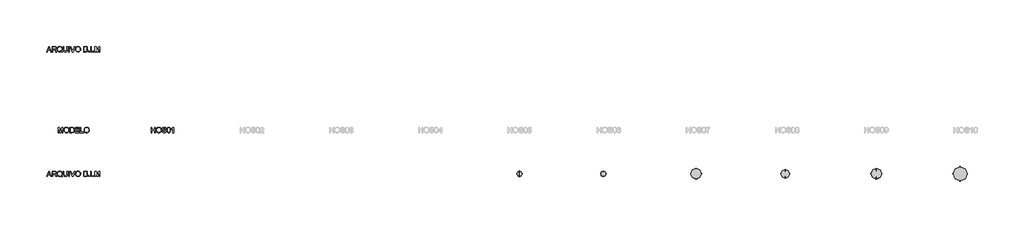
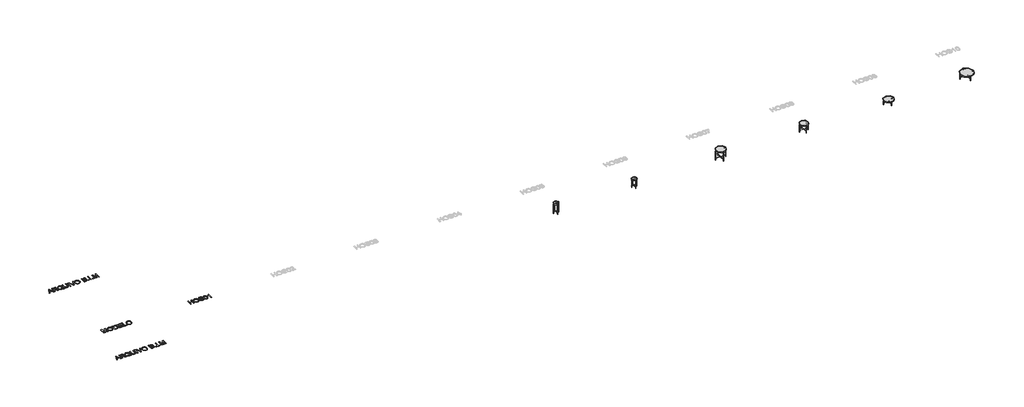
# One storey, part 1 of 6: 6 furniture elements, 4 proxies.
"""IFC4 building model written with IfcOpenShell, lengths in millimetres."""

from ifc_helpers import new_model, si_unit, origin, origin_with_axes, place, context, project, spatial, polyline, outline, extrude, transform, mapped, element, save
from components import furniture_314bbc4c, furniture_1215a6ad, furniture_02275d27, furniture_7c72b268, furniture_b6648ea0, furniture_61072afe

model = new_model("IFC4")

# Units and contexts
model_context = context("Model", 3, world=origin())
ifc_project = project(units=[si_unit("LENGTHUNIT", "METRE", prefix="MILLI")], contexts=[model_context])

# Site, building, storey
site = spatial("IfcSite", under=ifc_project)
building = spatial("IfcBuilding", under=site)
storey = spatial("IfcBuildingStorey", under=building, Name="Marelli - Linha HOSPITALITY - Planta Baixa", Elevation=0.0)

# Proxies
placement = place(None, origin())
element("IfcBuildingElementProxy", 1, Name="300mm Arial", ObjectType="300mm Arial", at=placement, inside=storey, context=model_context, shape_type="SweptSolid", body=[
    extrude(outline(polyline([(-4747.9135417, -4780.5663201), (-4747.9135417, -4479.1973896), (-4710.2424254, -4479.1973896), (-4710.2424254, -4601.6285176), (-4550.1401811, -4601.6285176), (-4550.1401811, -4479.1973896), (-4512.4690648, -4479.1973896), (-4512.4690648, -4780.5663201), (-4550.1401811, -4780.5663201), (-4550.1401811, -4639.2996339), (-4710.2424254, -4639.2996339), (-4710.2424254, -4780.5663201), (-4747.9135417, -4780.5663201)])), origin_with_axes(), (0.0, 0.0, 1.0), 10.0),
    extrude(outline(polyline([(-4460.6712798, -4633.8549804), (-4458.1604852, -4598.5061192), (-4450.6281014, -4567.213157), (-4438.0741283, -4539.9760937), (-4420.498566, -4516.7949295), (-4398.9544766, -4498.2858666), (-4374.4949225, -4485.0651074), (-4347.1199035, -4477.1326519), (-4316.8294197, -4474.4885001), (-4277.3004994, -4479.454907), (-4241.8550691, -4494.3541278), (-4212.4245095, -4518.1376988), (-4190.940201, -4549.7571563), (-4177.8068138, -4587.68579), (-4173.429018, -4630.3968896), (-4178.03674, -4673.6782064), (-4191.859906, -4712.140269), (-4214.1351608, -4743.8149087), (-4244.0991493, -4766.733957), (-4279.2410769, -4780.6398965), (-4317.0501489, -4785.2752096), (-4357.1860746, -4780.1524528), (-4392.8338399, -4764.7841825), (-4422.1908232, -4740.5591531), (-4443.4544025, -4708.8661192), (-4456.3670605, -4672.3998164), (-4460.6712798, -4633.8549804)]), holes=[polyline([(-4423.0001635, -4634.2228624), (-4421.1170676, -4659.1974513), (-4415.4677797, -4681.3669401), (-4406.0522999, -4700.7313286), (-4392.8706281, -4717.2906169), (-4376.847068, -4730.5527628), (-4358.9059229, -4740.0257242), (-4339.047193, -4745.709501), (-4317.2708781, -4747.6040933), (-4295.1220828, -4745.6911069), (-4275.028828, -4739.9521478), (-4256.991114, -4730.3872159), (-4241.0089405, -4716.9963113), (-4227.9238378, -4700.0875351), (-4218.5773359, -4679.9689885), (-4212.9694347, -4656.6406715), (-4211.1001343, -4630.102584), (-4214.3007077, -4596.7540812), (-4223.9024278, -4567.9305269), (-4239.6569742, -4544.358488), (-4261.3160267, -4526.7645316), (-4287.4448454, -4515.8108452), (-4316.6086905, -4512.1596164), (-4337.628548, -4513.9185522), (-4357.1308923, -4519.1953595), (-4375.1157233, -4527.9900385), (-4391.5830412, -4540.302589), (-4405.3280322, -4556.7262208), (-4415.1458829, -4577.8541437), (-4421.0365934, -4603.6863575), (-4423.0001635, -4634.2228624)])]), origin_with_axes(), (0.0, 0.0, 1.0), 10.0),
    extrude(outline(polyline([(-4135.7579017, -4676.9707502), (-4098.0867854, -4676.9707502), (-4093.764172, -4697.8756446), (-4085.9466796, -4714.6786547), (-4073.7513914, -4728.0143771), (-4056.2953908, -4738.517408), (-4034.958235, -4745.332422), (-4011.1194817, -4747.6040933), (-3990.1318139, -4745.884245), (-3971.7561083, -4740.7247), (-3956.8660845, -4732.5577197), (-3946.3354624, -4721.8155654), (-3940.0722714, -4709.4823216), (-3937.9845411, -4696.5420724), (-3939.5480396, -4683.932917), (-3944.238535, -4673.0344129), (-3953.7666787, -4663.7361954), (-3969.8431219, -4655.9279001), (-4024.6943274, -4641.5437141), (-4060.7007776, -4632.0247675), (-4083.7393876, -4622.9656733), (-4102.4921723, -4610.2921386), (-4115.7819094, -4594.9330653), (-4123.7005693, -4577.2195472), (-4126.3401226, -4557.4826782), (-4123.0751699, -4535.4189555), (-4113.2803118, -4514.845155), (-4097.2130657, -4497.4075484), (-4075.1309489, -4484.7524077), (-4048.6250512, -4477.054477), (-4019.286462, -4474.4885001), (-3987.5014577, -4477.1740386), (-3959.6895788, -4485.2306543), (-3936.8441069, -4498.4928003), (-3919.9583233, -4516.7949295), (-3909.2713514, -4538.9966079), (-3905.0223143, -4563.9574013), (-3942.6934306, -4563.9574013), (-3949.6096121, -4541.4798114), (-3964.0305864, -4525.2562154), (-3986.5633586, -4515.4337661), (-4017.8149341, -4512.1596164), (-4049.8022735, -4515.3969779), (-4071.7464345, -4525.1090626), (-4084.4383634, -4539.4012781), (-4088.6690063, -4556.3790322), (-4085.6707681, -4570.8551887), (-4076.6760533, -4582.4986539), (-4055.412474, -4592.9097143), (-4015.1661837, -4603.541504), (-3973.6323064, -4613.6398648), (-3948.5059662, -4622.4506385), (-3927.0308547, -4636.1174547), (-3912.0488604, -4652.9848441), (-3903.2472837, -4672.868866), (-3900.3134248, -4695.5855792), (-3903.6887421, -4718.8081301), (-3913.814694, -4740.6511236), (-3930.2774133, -4759.4498935), (-3952.6630327, -4773.539774), (-3979.5827977, -4782.3413507), (-4009.6479538, -4785.2752096), (-4046.5557149, -4782.1114244), (-4076.9335707, -4772.620069), (-4101.1310089, -4756.764355), (-4119.4975175, -4734.5074943), (-4131.2881355, -4707.3945912), (-4135.7579017, -4676.9707502)])), origin_with_axes(), (0.0, 0.0, 1.0), 10.0),
    extrude(outline(polyline([(-3857.933419, -4632.309876), (-3855.1651069, -4584.0713494), (-3846.8601709, -4545.6000897), (-3833.1013843, -4516.3074859), (-3813.9715205, -4495.6049266), (-3789.3326239, -4483.2992739), (-3759.0467386, -4479.1973896), (-3735.8333848, -4481.6254108), (-3715.048052, -4488.9094743), (-3697.6656278, -4500.7644716), (-3684.6609992, -4516.9052941), (-3674.83855, -4537.1939862), (-3667.0026635, -4561.4925919), (-3661.8707096, -4592.3486943), (-3660.1600583, -4632.309876), (-3662.9007792, -4680.2724911), (-3671.1229418, -4718.6517803), (-3684.798955, -4747.9719753), (-3703.9012276, -4768.757308), (-3728.5953065, -4781.1457342), (-3759.0467386, -4785.2752096), (-3779.7952832, -4783.4817849), (-3798.1893829, -4778.1015107), (-3814.2290379, -4769.1343871), (-3827.9142481, -4756.580414), (-3841.0476354, -4733.8866934), (-3850.4286262, -4705.6103636), (-3856.0572208, -4671.7514244), (-3857.933419, -4632.309876)]), holes=[polyline([(-3820.2623026, -4632.2362996), (-3815.8477187, -4691.492892), (-3810.3294888, -4711.7608907), (-3802.6039669, -4725.788691), (-3782.8854919, -4742.1502427), (-3759.0467386, -4747.6040933), (-3735.2079854, -4742.1318486), (-3715.4895104, -4725.7151146), (-3707.7639885, -4711.6643216), (-3702.2457586, -4691.4009215), (-3697.8311747, -4632.2362996), (-3702.0986058, -4574.3132795), (-3707.4328947, -4554.1119594), (-3714.9008992, -4539.750766), (-3734.582586, -4522.589071), (-3759.488197, -4516.8685059), (-3783.0694329, -4521.9084893), (-3802.0153557, -4537.0284393), (-3809.998395, -4552.6634241), (-3815.7005659, -4573.7430624), (-3820.2623026, -4632.2362996)])]), origin_with_axes(), (0.0, 0.0, 1.0), 10.0),
    extrude(outline(polyline([(-3485.9311454, -4780.5663201), (-3523.6022617, -4780.5663201), (-3523.6022617, -4545.7104543), (-3559.2868153, -4571.1311002), (-3598.9444943, -4590.1505994), (-3598.9444943, -4554.5396222), (-3569.3575849, -4538.4447849), (-3543.7254069, -4519.2965271), (-3523.5194883, -4498.9342587), (-3510.2113571, -4479.1973896), (-3485.9311454, -4479.1973896), (-3485.9311454, -4780.5663201)])), origin_with_axes(), (0.0, 0.0, 1.0), 10.0),
])
element("IfcBuildingElementProxy", 2, Name="300mm Arial", ObjectType="300mm Arial", at=placement, inside=storey, context=model_context, shape_type="SweptSolid", body=[
    extrude(outline(polyline([(-10609.419598, -239.4931861), (-10489.1221856, 61.8757443), (-10457.0428756, 61.8757443), (-10336.7454632, -239.4931861), (-10376.550295, -239.4931861), (-10411.0576262, -145.3153953), (-10535.1810114, -145.3153953), (-10569.6147661, -239.4931861), (-10609.419598, -239.4931861)]), holes=[polyline([(-10521.3486483, -107.644279), (-10424.8164128, -107.644279), (-10451.9661041, -33.5528452), (-10473.0825306, 24.204628), (-10491.8445123, -27.0781221), (-10521.3486483, -107.644279)])]), origin_with_axes(), (0.0, 0.0, 1.0), 10.0),
    extrude(outline(polyline([(-10296.4991729, -239.4931861), (-10296.4991729, 61.8757443), (-10166.6368286, 61.8757443), (-10131.7340243, 59.8431963), (-10106.3409696, 53.7455523), (-10087.7813229, 42.4883632), (-10073.3787428, 24.9771802), (-10064.1357077, 3.2629455), (-10061.054696, -20.603399), (-10066.1590587, -50.291476), (-10081.4721467, -74.9027815), (-10093.0719259, -84.9321644), (-10107.4538126, -92.9473933), (-10144.5639089, -102.9353895), (-10123.1531768, -119.0486209), (-10092.6189712, -157.8233832), (-10042.3662906, -239.4931861), (-10086.144248, -239.4931861), (-10125.3604687, -177.0268233), (-10153.6873824, -135.6768871), (-10173.5897983, -116.1423531), (-10191.5056515, -108.9686542), (-10213.357842, -107.644279), (-10258.8280566, -107.644279), (-10258.8280566, -239.4931861), (-10296.4991729, -239.4931861)]), holes=[polyline([(-10258.8280566, -69.9731627), (-10174.5095033, -69.9731627), (-10150.293671, -68.6395905), (-10131.5040981, -64.6388738), (-10117.3590353, -57.7042982), (-10107.0767336, -47.5691492), (-10100.8135426, -35.3094817), (-10098.7258123, -22.0013506), (-10102.7081349, -3.6256449), (-10114.6551027, 11.1816054), (-10135.2105092, 20.9488724), (-10165.0181478, 24.204628), (-10258.8280566, 24.204628), (-10258.8280566, -69.9731627)])]), origin_with_axes(), (0.0, 0.0, 1.0), 10.0),
    extrude(outline(polyline([(-9768.7356626, -203.3671742), (-9744.4002686, -221.963609), (-9722.0146492, -234.7842966), (-9732.1681923, -262.3754462), (-9763.2358268, -247.9728661), (-9794.1930967, -227.1323511), (-9829.0499157, -239.9346445), (-9867.4016137, -244.2020756), (-9905.9372527, -239.281654), (-9940.7572836, -224.5203889), (-9969.9211287, -200.8471825), (-9991.4882107, -169.1909368), (-10004.814736, -131.2898943), (-10009.2569111, -88.8822973), (-10004.823933, -46.4379121), (-9991.5249989, -7.9850465), (-9970.0406904, 24.1218546), (-9941.0515892, 47.5283465), (-9906.360317, 61.820562), (-9867.7694957, 66.5846339), (-9828.8751718, 61.7101974), (-9794.0091557, 47.0868881), (-9765.0660397, 23.6895932), (-9743.9404161, -7.5067999), (-9731.0277581, -44.8468225), (-9726.7235388, -86.6750053), (-9729.3355009, -121.458248), (-9737.1713874, -152.5258824), (-9750.2863806, -179.8411206), (-9768.7356626, -203.3671742)]), holes=[polyline([(-9857.0273415, -153.2616464), (-9825.3527017, -165.2362054), (-9799.784903, -181.8828657), (-9784.3016695, -164.4084709), (-9773.2422171, -143.034527), (-9766.6065456, -117.7610339), (-9764.3946551, -88.5879917), (-9767.521652, -55.4326269), (-9776.9026429, -26.7470283), (-9792.3077015, -3.2577629), (-9813.5069014, 14.3086024), (-9839.065503, 25.2622888), (-9867.5487665, 28.9135176), (-9889.033075, 27.0672098), (-9908.6043972, 21.5282865), (-9926.2627329, 12.2967477), (-9942.0080823, -0.6274066), (-9954.9483315, -17.2165854), (-9964.1913666, -37.4431973), (-9969.7371877, -61.3072425), (-9971.5857948, -88.8087209), (-9969.7578811, -115.5928294), (-9964.2741401, -139.0705985), (-9955.1345718, -159.2420281), (-9942.3391761, -176.1071183), (-9926.7018921, -189.4175488), (-9909.0366585, -198.9249991), (-9889.3434755, -204.6294693), (-9867.6223429, -206.5309593), (-9846.7082515, -204.5995789), (-9827.081747, -198.8054374), (-9846.3771577, -188.7806531), (-9866.7394261, -182.1035949), (-9857.0273415, -153.2616464)])]), origin_with_axes(), (0.0, 0.0, 1.0), 10.0),
    extrude(outline(polyline([(-9472.4435037, 61.8757443), (-9434.7723874, 61.8757443), (-9434.7723874, -111.9852866), (-9437.3291673, -152.7006264), (-9444.9995069, -184.0533694), (-9459.3285106, -208.2416106), (-9481.8612828, -227.4634449), (-9512.6530058, -240.0174179), (-9551.7588619, -244.2020756), (-9590.0093923, -240.5600439), (-9620.5895832, -229.6339486), (-9643.5086315, -211.8008689), (-9658.7757343, -187.4378838), (-9667.3565818, -154.7607656), (-9670.2168643, -111.9852866), (-9670.2168643, 61.8757443), (-9632.545748, 61.8757443), (-9632.545748, -110.6609114), (-9630.6879439, -144.515252), (-9625.1145317, -168.0872908), (-9615.0161709, -184.4120544), (-9599.5835212, -196.5245691), (-9579.4603761, -204.0293618), (-9555.290529, -206.5309593), (-9516.9756192, -201.5829465), (-9502.6328199, -195.3979305), (-9491.499791, -186.738908), (-9483.1626653, -174.562014), (-9477.2075755, -157.8233832), (-9472.4435037, -110.6609114), (-9472.4435037, 61.8757443)])), origin_with_axes(), (0.0, 0.0, 1.0), 10.0),
    extrude(outline(polyline([(-9364.1390443, -239.4931861), (-9364.1390443, 61.8757443), (-9326.467928, 61.8757443), (-9326.467928, -239.4931861), (-9364.1390443, -239.4931861)])), origin_with_axes(), (0.0, 0.0, 1.0), 10.0),
    extrude(outline(polyline([(-9162.0982526, -239.4931861), (-9282.027783, 61.8757443), (-9241.7079163, 61.8757443), (-9161.436065, -155.2482092), (-9145.1756808, -204.1765146), (-9129.1360258, -155.2482092), (-9048.6434453, 61.8757443), (-9008.3235786, 61.8757443), (-9123.1763375, -239.4931861), (-9162.0982526, -239.4931861)])), origin_with_axes(), (0.0, 0.0, 1.0), 10.0),
    extrude(outline(polyline([(-8987.4278813, -92.7818464), (-8984.9170866, -57.4329852), (-8977.3847028, -26.140023), (-8964.8307297, 1.0970402), (-8947.2551674, 24.2782044), (-8925.711078, 42.7872673), (-8901.2515239, 56.0080265), (-8873.8765049, 63.940482), (-8843.5860211, 66.5846339), (-8804.0571008, 61.6182269), (-8768.6116705, 46.7190061), (-8739.1811109, 22.9354352), (-8717.6968024, -8.6840223), (-8704.5634152, -46.612656), (-8700.1856194, -89.3237557), (-8704.7933414, -132.6050724), (-8718.6165074, -171.067135), (-8740.8917622, -202.7417748), (-8770.8557507, -225.6608231), (-8805.9976783, -239.5667625), (-8843.8067503, -244.2020756), (-8883.942676, -239.0793189), (-8919.5904413, -223.7110485), (-8948.9474246, -199.4860191), (-8970.2110039, -167.7929852), (-8983.1236619, -131.3266825), (-8987.4278813, -92.7818464)]), holes=[polyline([(-8949.7567649, -93.1497284), (-8947.873669, -118.1243174), (-8942.2243811, -140.2938061), (-8932.8089013, -159.6581946), (-8919.6272295, -176.2174829), (-8903.6036694, -189.4796289), (-8885.6625243, -198.9525902), (-8865.8037944, -204.6363671), (-8844.0274795, -206.5309593), (-8821.8786842, -204.617973), (-8801.7854294, -198.8790138), (-8783.7477154, -189.314082), (-8767.7655419, -175.9231773), (-8754.6804392, -159.0144011), (-8745.3339373, -138.8958545), (-8739.7260361, -115.5675375), (-8737.8567357, -89.0294501), (-8741.0573091, -55.6809472), (-8750.6590292, -26.8573929), (-8766.4135756, -3.2853541), (-8788.0726281, 14.3086024), (-8814.2014468, 25.2622888), (-8843.3652919, 28.9135176), (-8864.3851494, 27.1545818), (-8883.8874937, 21.8777744), (-8901.8723248, 13.0830955), (-8918.3396426, 0.7705449), (-8932.0846336, -15.6530869), (-8941.9024844, -36.7810097), (-8947.7931948, -62.6132236), (-8949.7567649, -93.1497284)])]), origin_with_axes(), (0.0, 0.0, 1.0), 10.0),
    extrude(outline(polyline([(-8530.665596, -239.4931861), (-8530.665596, 61.8757443), (-8415.6656844, 61.8757443), (-8384.0370298, 59.6592553), (-8359.3429509, 53.0097883), (-8340.4154222, 41.7617963), (-8326.0864185, 25.7497324), (-8317.0641126, 6.9141743), (-8314.0566773, -12.8043007), (-8316.585866, -30.9500801), (-8324.1734321, -48.0106076), (-8336.874558, -62.9374196), (-8354.7444259, -74.6820523), (-8333.3980732, -85.8288767), (-8317.6251326, -102.7882367), (-8307.8854568, -124.4380921), (-8304.6388982, -149.6564029), (-8306.8553872, -170.6716619), (-8313.5048543, -190.1602106), (-8323.4284711, -206.7332944), (-8335.4674094, -219.002159), (-8350.2102804, -227.8865092), (-8368.2456952, -234.30605), (-8416.5486011, -239.4931861), (-8530.665596, -239.4931861)]), holes=[polyline([(-8492.9944797, -60.5553836), (-8424.2005466, -60.5553836), (-8384.0278328, -57.3180221), (-8369.9655435, -51.7354128), (-8359.8579857, -43.3752945), (-8353.7603416, -32.3664258), (-8351.7277936, -18.8375654), (-8353.6223859, -5.7041782), (-8359.3061627, 5.7369519), (-8368.5216067, 14.6672873), (-8381.0112004, 20.2682907), (-8429.424471, 24.204628), (-8492.9944797, 24.204628), (-8492.9944797, -60.5553836)]), polyline([(-8492.9944797, -201.8220698), (-8415.7392607, -201.8220698), (-8387.7802291, -200.3505418), (-8364.1254168, -192.1467733), (-8348.4536438, -175.4081425), (-8343.8459218, -163.5807364), (-8342.3100145, -150.0242849), (-8344.1126363, -134.2789355), (-8349.5205016, -120.7408781), (-8358.9658718, -110.1550736), (-8372.8810083, -103.2664833), (-8392.5902862, -99.4864958), (-8419.4180807, -98.2265), (-8492.9944797, -98.2265), (-8492.9944797, -201.8220698)])]), origin_with_axes(), (0.0, 0.0, 1.0), 10.0),
    extrude(outline(polyline([(-8248.1322237, -239.4931861), (-8248.1322237, -201.8220698), (-8210.4611074, -201.8220698), (-8210.4611074, -239.4931861), (-8248.1322237, -239.4931861)])), origin_with_axes(), (0.0, 0.0, 1.0), 10.0),
    extrude(outline(polyline([(-8130.4099853, -239.4931861), (-8130.4099853, 61.8757443), (-8092.738869, 61.8757443), (-8092.738869, -239.4931861), (-8130.4099853, -239.4931861)])), origin_with_axes(), (0.0, 0.0, 1.0), 10.0),
    extrude(outline(polyline([(-8012.6877468, -239.4931861), (-8012.6877468, -201.8220698), (-7975.0166305, -201.8220698), (-7975.0166305, -239.4931861), (-8012.6877468, -239.4931861)])), origin_with_axes(), (0.0, 0.0, 1.0), 10.0),
    extrude(outline(polyline([(-7899.6743979, -239.4931861), (-7899.6743979, 61.8757443), (-7834.8535904, 61.8757443), (-7773.196568, -150.5393197), (-7760.7621565, -194.9058883), (-7747.2976755, -146.8604997), (-7686.6707227, 61.8757443), (-7621.8499152, 61.8757443), (-7621.8499152, -239.4931861), (-7659.5210315, -239.4931861), (-7659.5210315, 24.204628), (-7735.2311461, -239.4931861), (-7786.293167, -239.4931861), (-7862.0032816, 24.204628), (-7862.0032816, -239.4931861), (-7899.6743979, -239.4931861)])), origin_with_axes(), (0.0, 0.0, 1.0), 10.0),
])
element("IfcBuildingElementProxy", 3, Name="300mm Arial", ObjectType="300mm Arial", at=placement, inside=storey, context=model_context, shape_type="SweptSolid", body=[
    extrude(outline(polyline([(-10609.419598, -7239.4931861), (-10489.1221856, -6938.1242557), (-10457.0428756, -6938.1242557), (-10336.7454632, -7239.4931861), (-10376.550295, -7239.4931861), (-10411.0576262, -7145.3153953), (-10535.1810114, -7145.3153953), (-10569.6147661, -7239.4931861), (-10609.419598, -7239.4931861)]), holes=[polyline([(-10521.3486483, -7107.644279), (-10424.8164128, -7107.644279), (-10451.9661041, -7033.5528452), (-10473.0825306, -6975.795372), (-10491.8445123, -7027.0781221), (-10521.3486483, -7107.644279)])]), origin_with_axes(), (0.0, 0.0, 1.0), 10.0),
    extrude(outline(polyline([(-10296.4991729, -7239.4931861), (-10296.4991729, -6938.1242557), (-10166.6368286, -6938.1242557), (-10131.7340243, -6940.1568037), (-10106.3409696, -6946.2544477), (-10087.7813229, -6957.5116368), (-10073.3787428, -6975.0228198), (-10064.1357077, -6996.7370545), (-10061.054696, -7020.603399), (-10066.1590587, -7050.291476), (-10081.4721467, -7074.9027815), (-10093.0719259, -7084.9321644), (-10107.4538126, -7092.9473933), (-10144.5639089, -7102.9353895), (-10123.1531768, -7119.0486209), (-10092.6189712, -7157.8233832), (-10042.3662906, -7239.4931861), (-10086.144248, -7239.4931861), (-10125.3604687, -7177.0268233), (-10153.6873824, -7135.6768871), (-10173.5897983, -7116.1423531), (-10191.5056515, -7108.9686542), (-10213.357842, -7107.644279), (-10258.8280566, -7107.644279), (-10258.8280566, -7239.4931861), (-10296.4991729, -7239.4931861)]), holes=[polyline([(-10258.8280566, -7069.9731627), (-10174.5095033, -7069.9731627), (-10150.293671, -7068.6395905), (-10131.5040981, -7064.6388738), (-10117.3590353, -7057.7042982), (-10107.0767336, -7047.5691492), (-10100.8135426, -7035.3094817), (-10098.7258123, -7022.0013506), (-10102.7081349, -7003.6256449), (-10114.6551027, -6988.8183946), (-10135.2105092, -6979.0511276), (-10165.0181478, -6975.795372), (-10258.8280566, -6975.795372), (-10258.8280566, -7069.9731627)])]), origin_with_axes(), (0.0, 0.0, 1.0), 10.0),
    extrude(outline(polyline([(-9768.7356626, -7203.3671742), (-9744.4002686, -7221.963609), (-9722.0146492, -7234.7842966), (-9732.1681923, -7262.3754462), (-9763.2358268, -7247.9728661), (-9794.1930967, -7227.1323511), (-9829.0499157, -7239.9346445), (-9867.4016137, -7244.2020756), (-9905.9372527, -7239.281654), (-9940.7572836, -7224.5203889), (-9969.9211287, -7200.8471825), (-9991.4882107, -7169.1909368), (-10004.814736, -7131.2898943), (-10009.2569111, -7088.8822973), (-10004.823933, -7046.4379121), (-9991.5249989, -7007.9850465), (-9970.0406904, -6975.8781454), (-9941.0515892, -6952.4716535), (-9906.360317, -6938.179438), (-9867.7694957, -6933.4153661), (-9828.8751718, -6938.2898026), (-9794.0091557, -6952.9131119), (-9765.0660397, -6976.3104068), (-9743.9404161, -7007.5067999), (-9731.0277581, -7044.8468225), (-9726.7235388, -7086.6750053), (-9729.3355009, -7121.458248), (-9737.1713874, -7152.5258824), (-9750.2863806, -7179.8411206), (-9768.7356626, -7203.3671742)]), holes=[polyline([(-9857.0273415, -7153.2616464), (-9825.3527017, -7165.2362054), (-9799.784903, -7181.8828657), (-9784.3016695, -7164.4084709), (-9773.2422171, -7143.034527), (-9766.6065456, -7117.7610339), (-9764.3946551, -7088.5879917), (-9767.521652, -7055.4326269), (-9776.9026429, -7026.7470283), (-9792.3077015, -7003.2577629), (-9813.5069014, -6985.6913976), (-9839.065503, -6974.7377112), (-9867.5487665, -6971.0864824), (-9889.033075, -6972.9327902), (-9908.6043972, -6978.4717135), (-9926.2627329, -6987.7032523), (-9942.0080823, -7000.6274066), (-9954.9483315, -7017.2165854), (-9964.1913666, -7037.4431973), (-9969.7371877, -7061.3072425), (-9971.5857948, -7088.8087209), (-9969.7578811, -7115.5928294), (-9964.2741401, -7139.0705985), (-9955.1345718, -7159.2420281), (-9942.3391761, -7176.1071183), (-9926.7018921, -7189.4175488), (-9909.0366585, -7198.9249991), (-9889.3434755, -7204.6294693), (-9867.6223429, -7206.5309593), (-9846.7082515, -7204.5995789), (-9827.081747, -7198.8054374), (-9846.3771577, -7188.7806531), (-9866.7394261, -7182.1035949), (-9857.0273415, -7153.2616464)])]), origin_with_axes(), (0.0, 0.0, 1.0), 10.0),
    extrude(outline(polyline([(-9472.4435037, -6938.1242557), (-9434.7723874, -6938.1242557), (-9434.7723874, -7111.9852866), (-9437.3291673, -7152.7006264), (-9444.9995069, -7184.0533694), (-9459.3285106, -7208.2416106), (-9481.8612828, -7227.4634449), (-9512.6530058, -7240.0174179), (-9551.7588619, -7244.2020756), (-9590.0093923, -7240.5600439), (-9620.5895832, -7229.6339486), (-9643.5086315, -7211.8008689), (-9658.7757343, -7187.4378838), (-9667.3565818, -7154.7607656), (-9670.2168643, -7111.9852866), (-9670.2168643, -6938.1242557), (-9632.545748, -6938.1242557), (-9632.545748, -7110.6609114), (-9630.6879439, -7144.515252), (-9625.1145317, -7168.0872908), (-9615.0161709, -7184.4120544), (-9599.5835212, -7196.5245691), (-9579.4603761, -7204.0293618), (-9555.290529, -7206.5309593), (-9516.9756192, -7201.5829465), (-9502.6328199, -7195.3979305), (-9491.499791, -7186.738908), (-9483.1626653, -7174.562014), (-9477.2075755, -7157.8233832), (-9472.4435037, -7110.6609114), (-9472.4435037, -6938.1242557)])), origin_with_axes(), (0.0, 0.0, 1.0), 10.0),
    extrude(outline(polyline([(-9364.1390443, -7239.4931861), (-9364.1390443, -6938.1242557), (-9326.467928, -6938.1242557), (-9326.467928, -7239.4931861), (-9364.1390443, -7239.4931861)])), origin_with_axes(), (0.0, 0.0, 1.0), 10.0),
    extrude(outline(polyline([(-9162.0982526, -7239.4931861), (-9282.027783, -6938.1242557), (-9241.7079163, -6938.1242557), (-9161.436065, -7155.2482092), (-9145.1756808, -7204.1765146), (-9129.1360258, -7155.2482092), (-9048.6434453, -6938.1242557), (-9008.3235786, -6938.1242557), (-9123.1763375, -7239.4931861), (-9162.0982526, -7239.4931861)])), origin_with_axes(), (0.0, 0.0, 1.0), 10.0),
    extrude(outline(polyline([(-8987.4278813, -7092.7818464), (-8984.9170866, -7057.4329852), (-8977.3847028, -7026.140023), (-8964.8307297, -6998.9029598), (-8947.2551674, -6975.7217956), (-8925.711078, -6957.2127327), (-8901.2515239, -6943.9919735), (-8873.8765049, -6936.059518), (-8843.5860211, -6933.4153661), (-8804.0571008, -6938.3817731), (-8768.6116705, -6953.2809939), (-8739.1811109, -6977.0645648), (-8717.6968024, -7008.6840223), (-8704.5634152, -7046.612656), (-8700.1856194, -7089.3237557), (-8704.7933414, -7132.6050724), (-8718.6165074, -7171.067135), (-8740.8917622, -7202.7417748), (-8770.8557507, -7225.6608231), (-8805.9976783, -7239.5667625), (-8843.8067503, -7244.2020756), (-8883.942676, -7239.0793189), (-8919.5904413, -7223.7110485), (-8948.9474246, -7199.4860191), (-8970.2110039, -7167.7929852), (-8983.1236619, -7131.3266825), (-8987.4278813, -7092.7818464)]), holes=[polyline([(-8949.7567649, -7093.1497284), (-8947.873669, -7118.1243174), (-8942.2243811, -7140.2938061), (-8932.8089013, -7159.6581946), (-8919.6272295, -7176.2174829), (-8903.6036694, -7189.4796289), (-8885.6625243, -7198.9525902), (-8865.8037944, -7204.6363671), (-8844.0274795, -7206.5309593), (-8821.8786842, -7204.617973), (-8801.7854294, -7198.8790138), (-8783.7477154, -7189.314082), (-8767.7655419, -7175.9231773), (-8754.6804392, -7159.0144011), (-8745.3339373, -7138.8958545), (-8739.7260361, -7115.5675375), (-8737.8567357, -7089.0294501), (-8741.0573091, -7055.6809472), (-8750.6590292, -7026.8573929), (-8766.4135756, -7003.2853541), (-8788.0726281, -6985.6913976), (-8814.2014468, -6974.7377112), (-8843.3652919, -6971.0864824), (-8864.3851494, -6972.8454182), (-8883.8874937, -6978.1222256), (-8901.8723248, -6986.9169045), (-8918.3396426, -6999.2294551), (-8932.0846336, -7015.6530869), (-8941.9024844, -7036.7810097), (-8947.7931948, -7062.6132236), (-8949.7567649, -7093.1497284)])]), origin_with_axes(), (0.0, 0.0, 1.0), 10.0),
    extrude(outline(polyline([(-8530.665596, -7239.4931861), (-8530.665596, -6938.1242557), (-8415.6656844, -6938.1242557), (-8384.0370298, -6940.3407447), (-8359.3429509, -6946.9902117), (-8340.4154222, -6958.2382037), (-8326.0864185, -6974.2502676), (-8317.0641126, -6993.0858257), (-8314.0566773, -7012.8043007), (-8316.585866, -7030.9500801), (-8324.1734321, -7048.0106076), (-8336.874558, -7062.9374196), (-8354.7444259, -7074.6820523), (-8333.3980732, -7085.8288767), (-8317.6251326, -7102.7882367), (-8307.8854568, -7124.4380921), (-8304.6388982, -7149.6564029), (-8306.8553872, -7170.6716619), (-8313.5048543, -7190.1602106), (-8323.4284711, -7206.7332944), (-8335.4674094, -7219.002159), (-8350.2102804, -7227.8865092), (-8368.2456952, -7234.30605), (-8416.5486011, -7239.4931861), (-8530.665596, -7239.4931861)]), holes=[polyline([(-8492.9944797, -7060.5553836), (-8424.2005466, -7060.5553836), (-8384.0278328, -7057.3180221), (-8369.9655435, -7051.7354128), (-8359.8579857, -7043.3752945), (-8353.7603416, -7032.3664258), (-8351.7277936, -7018.8375654), (-8353.6223859, -7005.7041782), (-8359.3061627, -6994.2630481), (-8368.5216067, -6985.3327127), (-8381.0112004, -6979.7317093), (-8429.424471, -6975.795372), (-8492.9944797, -6975.795372), (-8492.9944797, -7060.5553836)]), polyline([(-8492.9944797, -7201.8220698), (-8415.7392607, -7201.8220698), (-8387.7802291, -7200.3505418), (-8364.1254168, -7192.1467733), (-8348.4536438, -7175.4081425), (-8343.8459218, -7163.5807364), (-8342.3100145, -7150.0242849), (-8344.1126363, -7134.2789355), (-8349.5205016, -7120.7408781), (-8358.9658718, -7110.1550736), (-8372.8810083, -7103.2664833), (-8392.5902862, -7099.4864958), (-8419.4180807, -7098.2265), (-8492.9944797, -7098.2265), (-8492.9944797, -7201.8220698)])]), origin_with_axes(), (0.0, 0.0, 1.0), 10.0),
    extrude(outline(polyline([(-8248.1322237, -7239.4931861), (-8248.1322237, -7201.8220698), (-8210.4611074, -7201.8220698), (-8210.4611074, -7239.4931861), (-8248.1322237, -7239.4931861)])), origin_with_axes(), (0.0, 0.0, 1.0), 10.0),
    extrude(outline(polyline([(-8130.4099853, -7239.4931861), (-8130.4099853, -6938.1242557), (-8092.738869, -6938.1242557), (-8092.738869, -7239.4931861), (-8130.4099853, -7239.4931861)])), origin_with_axes(), (0.0, 0.0, 1.0), 10.0),
    extrude(outline(polyline([(-8012.6877468, -7239.4931861), (-8012.6877468, -7201.8220698), (-7975.0166305, -7201.8220698), (-7975.0166305, -7239.4931861), (-8012.6877468, -7239.4931861)])), origin_with_axes(), (0.0, 0.0, 1.0), 10.0),
    extrude(outline(polyline([(-7899.6743979, -7239.4931861), (-7899.6743979, -6938.1242557), (-7834.8535904, -6938.1242557), (-7773.196568, -7150.5393197), (-7760.7621565, -7194.9058883), (-7747.2976755, -7146.8604997), (-7686.6707227, -6938.1242557), (-7621.8499152, -6938.1242557), (-7621.8499152, -7239.4931861), (-7659.5210315, -7239.4931861), (-7659.5210315, -6975.795372), (-7735.2311461, -7239.4931861), (-7786.293167, -7239.4931861), (-7862.0032816, -6975.795372), (-7862.0032816, -7239.4931861), (-7899.6743979, -7239.4931861)])), origin_with_axes(), (0.0, 0.0, 1.0), 10.0),
])
element("IfcBuildingElementProxy", 4, Name="300mm Arial", ObjectType="300mm Arial", at=placement, inside=storey, context=model_context, shape_type="SweptSolid", body=[
    extrude(outline(polyline([(-9966.8769052, -4780.5663201), (-9966.8769052, -4479.1973896), (-9902.0560977, -4479.1973896), (-9840.3990753, -4691.6124536), (-9827.9646638, -4735.9790223), (-9814.5001828, -4687.9336337), (-9753.87323, -4479.1973896), (-9689.0524225, -4479.1973896), (-9689.0524225, -4780.5663201), (-9726.7235388, -4780.5663201), (-9726.7235388, -4516.8685059), (-9802.4336534, -4780.5663201), (-9853.4956743, -4780.5663201), (-9929.2057889, -4516.8685059), (-9929.2057889, -4780.5663201), (-9966.8769052, -4780.5663201)])), origin_with_axes(), (0.0, 0.0, 1.0), 10.0),
    extrude(outline(polyline([(-9637.2546375, -4633.8549804), (-9634.7438429, -4598.5061192), (-9627.2114591, -4567.213157), (-9614.657486, -4539.9760937), (-9597.0819237, -4516.7949295), (-9575.5378343, -4498.2858666), (-9551.0782802, -4485.0651074), (-9523.7032612, -4477.1326519), (-9493.4127774, -4474.4885001), (-9453.883857, -4479.454907), (-9418.4384268, -4494.3541278), (-9389.0078672, -4518.1376988), (-9367.5235587, -4549.7571563), (-9354.3901714, -4587.68579), (-9350.0123757, -4630.3968896), (-9354.6200977, -4673.6782064), (-9368.4432637, -4712.140269), (-9390.7185185, -4743.8149087), (-9420.682507, -4766.733957), (-9455.8244346, -4780.6398965), (-9493.6335066, -4785.2752096), (-9533.7694323, -4780.1524528), (-9569.4171976, -4764.7841825), (-9598.7741808, -4740.5591531), (-9620.0377602, -4708.8661192), (-9632.9504182, -4672.3998164), (-9637.2546375, -4633.8549804)]), holes=[polyline([(-9599.5835212, -4634.2228624), (-9597.7004253, -4659.1974513), (-9592.0511374, -4681.3669401), (-9582.6356576, -4700.7313286), (-9569.4539858, -4717.2906169), (-9553.4304257, -4730.5527628), (-9535.4892806, -4740.0257242), (-9515.6305507, -4745.709501), (-9493.8542358, -4747.6040933), (-9471.7054404, -4745.6911069), (-9451.6121857, -4739.9521478), (-9433.5744716, -4730.3872159), (-9417.5922982, -4716.9963113), (-9404.5071955, -4700.0875351), (-9395.1606936, -4679.9689885), (-9389.5527924, -4656.6406715), (-9387.683492, -4630.102584), (-9390.8840654, -4596.7540812), (-9400.4857854, -4567.9305269), (-9416.2403319, -4544.358488), (-9437.8993843, -4526.7645316), (-9464.0282031, -4515.8108452), (-9493.1920482, -4512.1596164), (-9514.2119057, -4513.9185522), (-9533.71425, -4519.1953595), (-9551.699081, -4527.9900385), (-9568.1663988, -4540.302589), (-9581.9113899, -4556.7262208), (-9591.7292406, -4577.8541437), (-9597.6199511, -4603.6863575), (-9599.5835212, -4634.2228624)])]), origin_with_axes(), (0.0, 0.0, 1.0), 10.0),
    extrude(outline(polyline([(-9298.2145908, -4780.5663201), (-9298.2145908, -4479.1973896), (-9194.2511389, -4479.1973896), (-9140.4667912, -4483.5383972), (-9116.444097, -4491.9077126), (-9096.173799, -4505.0962821), (-9075.333284, -4528.0521186), (-9060.4892455, -4556.5997614), (-9051.6048953, -4590.1873876), (-9048.6434453, -4628.2631741), (-9050.6484021, -4660.6091985), (-9056.6632727, -4689.0740679), (-9065.8235344, -4713.3082943), (-9077.2646645, -4732.9623899), (-9090.4348399, -4748.477813), (-9104.7822377, -4760.2960221), (-9121.254154, -4769.0608107), (-9140.797885, -4775.4159721), (-9189.2479438, -4780.5663201), (-9298.2145908, -4780.5663201)]), holes=[polyline([(-9260.5434745, -4742.8952038), (-9193.8832569, -4742.8952038), (-9166.3105014, -4741.5340404), (-9145.39641, -4737.4505502), (-9129.6142724, -4730.8838566), (-9117.4373783, -4722.0730828), (-9104.3499764, -4705.7667134), (-9094.51833, -4684.6594839), (-9088.3655037, -4658.6594239), (-9086.3145616, -4627.6745629), (-9090.3336724, -4586.6189322), (-9102.3910047, -4556.3054558), (-9120.2056904, -4535.4833349), (-9141.4968608, -4522.9017706), (-9163.1651103, -4518.3768221), (-9194.9133265, -4516.8685059), (-9260.5434745, -4516.8685059), (-9260.5434745, -4742.8952038)])]), origin_with_axes(), (0.0, 0.0, 1.0), 10.0),
    extrude(outline(polyline([(-8996.8456603, -4780.5663201), (-8996.8456603, -4479.1973896), (-8780.2367416, -4479.1973896), (-8780.2367416, -4516.8685059), (-8959.174544, -4516.8685059), (-8959.174544, -4606.3374072), (-8789.6545206, -4606.3374072), (-8789.6545206, -4644.0085235), (-8959.174544, -4644.0085235), (-8959.174544, -4742.8952038), (-8775.527852, -4742.8952038), (-8775.527852, -4780.5663201), (-8996.8456603, -4780.5663201)])), origin_with_axes(), (0.0, 0.0, 1.0), 10.0),
    extrude(outline(polyline([(-8719.0211776, -4780.5663201), (-8719.0211776, -4479.1973896), (-8681.3500613, -4479.1973896), (-8681.3500613, -4742.8952038), (-8530.665596, -4742.8952038), (-8530.665596, -4780.5663201), (-8719.0211776, -4780.5663201)])), origin_with_axes(), (0.0, 0.0, 1.0), 10.0),
    extrude(outline(polyline([(-8502.4122588, -4633.8549804), (-8499.9014642, -4598.5061192), (-8492.3690803, -4567.213157), (-8479.8151073, -4539.9760937), (-8462.2395449, -4516.7949295), (-8440.6954556, -4498.2858666), (-8416.2359014, -4485.0651074), (-8388.8608825, -4477.1326519), (-8358.5703987, -4474.4885001), (-8319.0414783, -4479.454907), (-8283.5960481, -4494.3541278), (-8254.1654885, -4518.1376988), (-8232.6811799, -4549.7571563), (-8219.5477927, -4587.68579), (-8215.169997, -4630.3968896), (-8219.777719, -4673.6782064), (-8233.6008849, -4712.140269), (-8255.8761397, -4743.8149087), (-8285.8401283, -4766.733957), (-8320.9820558, -4780.6398965), (-8358.7911279, -4785.2752096), (-8398.9270536, -4780.1524528), (-8434.5748189, -4764.7841825), (-8463.9318021, -4740.5591531), (-8485.1953814, -4708.8661192), (-8498.1080395, -4672.3998164), (-8502.4122588, -4633.8549804)]), holes=[polyline([(-8464.7411425, -4634.2228624), (-8462.8580465, -4659.1974513), (-8457.2087587, -4681.3669401), (-8447.7932788, -4700.7313286), (-8434.6116071, -4717.2906169), (-8418.5880469, -4730.5527628), (-8400.6469019, -4740.0257242), (-8380.7881719, -4745.709501), (-8359.0118571, -4747.6040933), (-8336.8630617, -4745.6911069), (-8316.769807, -4739.9521478), (-8298.7320929, -4730.3872159), (-8282.7499195, -4716.9963113), (-8269.6648168, -4700.0875351), (-8260.3183148, -4679.9689885), (-8254.7104137, -4656.6406715), (-8252.8411133, -4630.102584), (-8256.0416866, -4596.7540812), (-8265.6434067, -4567.9305269), (-8281.3979532, -4544.358488), (-8303.0570056, -4526.7645316), (-8329.1858243, -4515.8108452), (-8358.3496695, -4512.1596164), (-8379.369527, -4513.9185522), (-8398.8718713, -4519.1953595), (-8416.8567023, -4527.9900385), (-8433.3240201, -4540.302589), (-8447.0690112, -4556.7262208), (-8456.8868619, -4577.8541437), (-8462.7775724, -4603.6863575), (-8464.7411425, -4634.2228624)])]), origin_with_axes(), (0.0, 0.0, 1.0), 10.0),
])

# Furniture
furniture_shape = furniture_314bbc4c(model_context)
element("IfcFurniture", 5, ObjectType="Mobiliário_Mobiliário de Escritório_Mesa de Centro e Apoio Lateral HOS05_Marelli : Mobiliário_Mobiliário de Escritório_Mesa de Centro e Apoio Lateral HOS05_Marelli", at=placement, inside=storey, context=model_context, shape_type="MappedRepresentation", body=[
    mapped(furniture_shape, transform((15901.9132146, -7089.4931861, 0.0), x_axis=(1.0, 0.0, 0.0), y_axis=(0.0, 1.0, 0.0), z_axis=(0.0, 0.0, 1.0))),
])
furniture_2_shape = furniture_1215a6ad(model_context)
element("IfcFurniture", 6, ObjectType="Mobiliário_Mobiliário de Escritório_Mesa de Centro e Apoio Lateral HOS06_Marelli : Mobiliário_Mobiliário de Escritório_Mesa de Centro e Apoio Lateral HOS06_Marelli", at=placement, inside=storey, context=model_context, shape_type="MappedRepresentation", body=[
    mapped(furniture_2_shape, transform((20601.9132146, -7089.4931861, 0.0), x_axis=(1.0, 0.0, 0.0), y_axis=(0.0, 1.0, 0.0), z_axis=(0.0, 0.0, 1.0))),
])
furniture_3_shape = furniture_02275d27(model_context)
element("IfcFurniture", 7, ObjectType="Mobiliário_Mobiliário de Escritório_Mesa de Centro e Apoio Lateral HOS07_Marelli : Mobiliário_Mobiliário de Escritório_Mesa de Centro e Apoio Lateral HOS07_Marelli", at=placement, inside=storey, context=model_context, shape_type="MappedRepresentation", body=[
    mapped(furniture_3_shape, transform((25801.9132146, -7089.4931861, 0.0), x_axis=(1.0, 0.0, 0.0), y_axis=(0.0, 1.0, 0.0), z_axis=(0.0, 0.0, 1.0))),
])
furniture_4_shape = furniture_7c72b268(model_context)
element("IfcFurniture", 8, ObjectType="Mobiliário_Mobiliário de Escritório_Mesa de Centro e Apoio Lateral HOS08_Marelli : Mobiliário_Mobiliário de Escritório_Mesa de Centro e Apoio Lateral HOS08_Marelli", at=placement, inside=storey, context=model_context, shape_type="MappedRepresentation", body=[
    mapped(furniture_4_shape, transform((30801.9132146, -7089.4931861, 0.0), x_axis=(1.0, 0.0, 0.0), y_axis=(0.0, 1.0, 0.0), z_axis=(0.0, 0.0, 1.0))),
])
furniture_5_shape = furniture_b6648ea0(model_context)
element("IfcFurniture", 9, ObjectType="Mobiliário_Mobiliário de Escritório_Mesa de Centro e Apoio Lateral HOS09_Marelli : Mobiliário_Mobiliário de Escritório_Mesa de Centro e Apoio Lateral HOS09_Marelli", at=placement, inside=storey, context=model_context, shape_type="MappedRepresentation", body=[
    mapped(furniture_5_shape, transform((35901.9132146, -7089.4931861, 0.0), x_axis=(1.0, 0.0, 0.0), y_axis=(0.0, 1.0, 0.0), z_axis=(0.0, 0.0, 1.0))),
])
furniture_6_shape = furniture_61072afe(model_context)
element("IfcFurniture", 10, ObjectType="Mobiliário_Mobiliário de Escritório_Mesa de Centro e Apoio Lateral HOS10_Marelli : Mobiliário_Mobiliário de Escritório_Mesa de Centro e Apoio Lateral HOS10_Marelli", at=placement, inside=storey, context=model_context, shape_type="MappedRepresentation", body=[
    mapped(furniture_6_shape, transform((40601.9132146, -7089.4931861, 0.0), x_axis=(1.0, 0.0, 0.0), y_axis=(0.0, 1.0, 0.0), z_axis=(0.0, 0.0, 1.0))),
])

save(model, "model.ifc")
